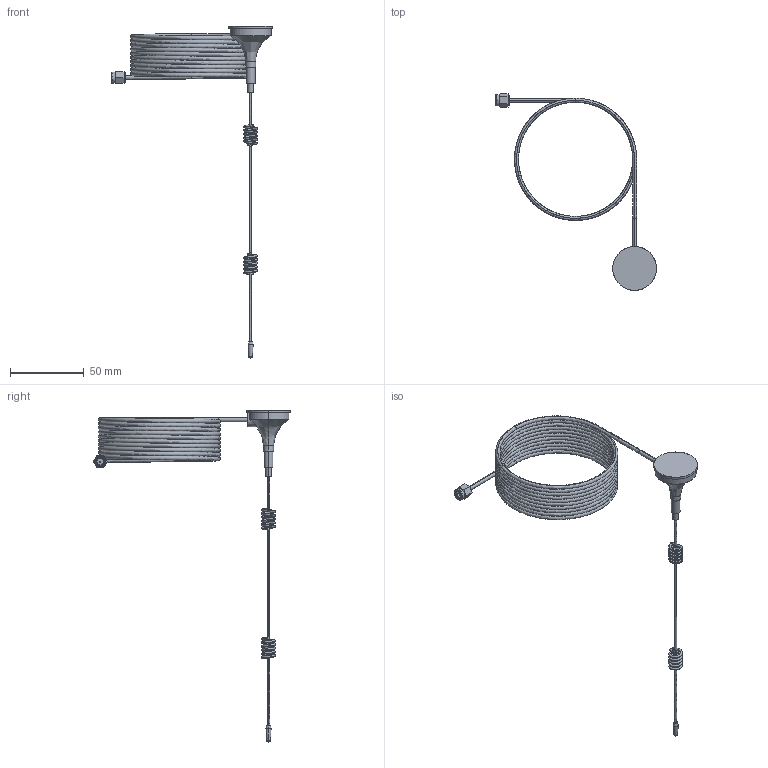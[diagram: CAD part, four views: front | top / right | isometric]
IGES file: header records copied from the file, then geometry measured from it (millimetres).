
Start section: SolidWorks IGES file using analytic representation for surfaces
Global section: file name: C:\Salvar\Planos Compartidos\Haiwell\Antena.IGS; native system: SolidWorks 2021; preprocessor: SolidWorks 2021; author: osval; date: 220112.145202; units: millimetre
Bounding box: 109.12 x 133.42 x 225.01 mm (x, y, z)
Surface area: 28552.7 mm2 (no closed solid volume)
Topology: 0 solids, 0 shells, 97 faces, 1349 edges, 1347 vertices
Faces by surface type: bspline 50, revolution 47
